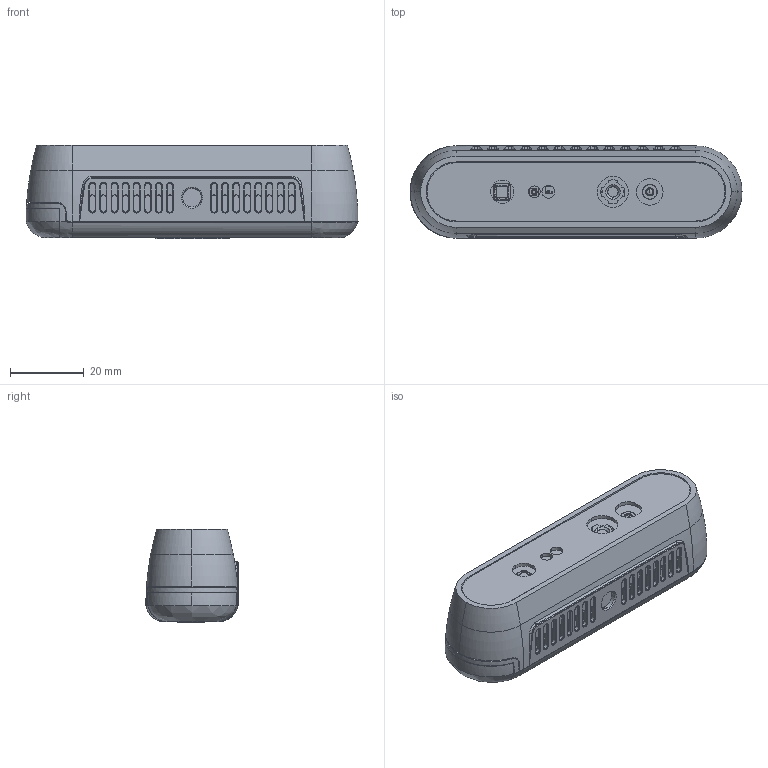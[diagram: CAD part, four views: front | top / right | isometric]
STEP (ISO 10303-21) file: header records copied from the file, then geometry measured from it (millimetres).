
FILE_DESCRIPTION (( 'STEP AP203' ), '1' );
FILE_NAME ('100RÉè±¸ÍâÐÎ3DÍ¼.STEP', '2022-06-15T06:07:32', ( '' ), ( '' ), 'SwSTEP 2.0', 'SolidWorks 2016', '' );
FILE_SCHEMA (( 'CONFIG_CONTROL_DESIGN' ));
Length unit declared in the file: millimetre
Products named in the file (1): 100R扢掘俋倛3D芞
Bounding box: 90 x 25 x 25.3 mm (x, y, z)
Volume: 47917.2 mm3; surface area: 18966.6 mm2
Topology: 9 solids, 13 shells, 978 faces, 2535 edges, 1640 vertices
Faces by surface type: plane 415, cylinder 284, bspline 186, cone 80, torus 13
Entity records: 36757 total; most frequent: CARTESIAN_POINT 14278, ORIENTED_EDGE 5042, DIRECTION 4052, EDGE_CURVE 2521, VERTEX_POINT 1640, AXIS2_PLACEMENT_3D 1365, VECTOR 1322, LINE 1322
